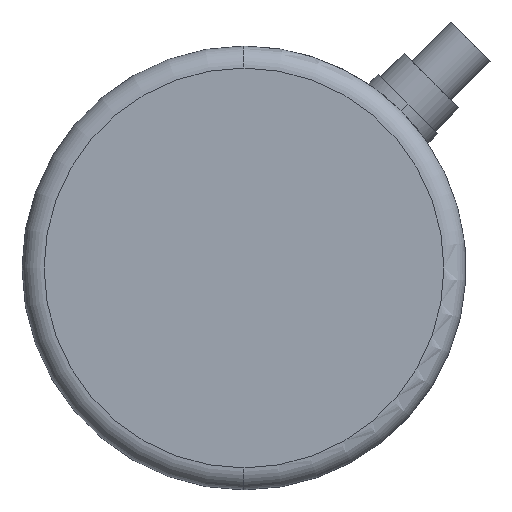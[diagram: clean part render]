
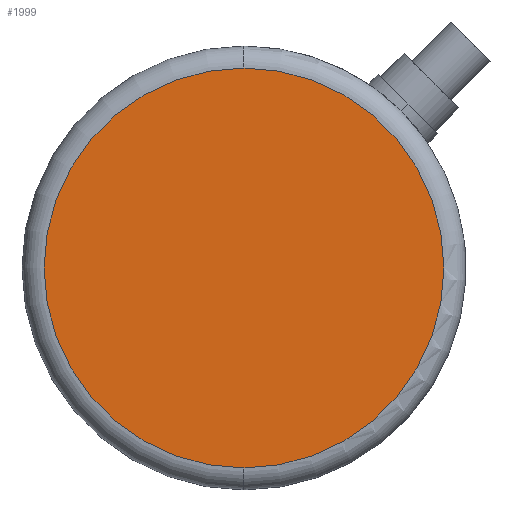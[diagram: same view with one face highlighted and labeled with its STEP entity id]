
A CAD part, front view. The second image highlights one B-rep face of the part: STEP entity #1999.
In plain terms, the highlighted planar face has unit normal (0, -1, 0).
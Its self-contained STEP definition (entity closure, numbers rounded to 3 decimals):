
#299 = ORIENTED_EDGE ( 'NONE', *, *, #2094, .T. ) ;
#300 = ORIENTED_EDGE ( 'NONE', *, *, #2115, .T. ) ;
#468 = CARTESIAN_POINT ( 'NONE',  ( 0., 0., 18.1 ) ) ;
#487 = CARTESIAN_POINT ( 'NONE',  ( 0., 0., -18.1 ) ) ;
#1130 = PLANE ( 'NONE',  #2607 ) ;
#1131 = CARTESIAN_POINT ( 'NONE',  ( 0., 0., 0. ) ) ;
#1132 = DIRECTION ( 'NONE',  ( 0., -1., 0. ) ) ;
#1133 = DIRECTION ( 'NONE',  ( 0., 0., -1. ) ) ;
#1426 = CARTESIAN_POINT ( 'NONE',  ( 0., 0., 0. ) ) ;
#1427 = DIRECTION ( 'NONE',  ( 0., -1., 0. ) ) ;
#1428 = DIRECTION ( 'NONE',  ( 0., 0., -1. ) ) ;
#1519 = CARTESIAN_POINT ( 'NONE',  ( 0., 0., 0. ) ) ;
#1520 = DIRECTION ( 'NONE',  ( 0., -1., 0. ) ) ;
#1521 = DIRECTION ( 'NONE',  ( 0., 0., -1. ) ) ;
#1709 = AXIS2_PLACEMENT_3D ( 'NONE', #1519, #1520, #1521 ) ;
#1765 = VERTEX_POINT ( 'NONE', #468 ) ;
#1859 = VERTEX_POINT ( 'NONE', #487 ) ;
#1999 = ADVANCED_FACE ( 'NONE', ( #2603 ), #1130, .T. ) ;
#2094 = EDGE_CURVE ( 'NONE', #1859, #1765, #2247, .T. ) ;
#2115 = EDGE_CURVE ( 'NONE', #1765, #1859, #2259, .T. ) ;
#2247 = CIRCLE ( 'NONE', #2661, 18.1 ) ;
#2259 = CIRCLE ( 'NONE', #1709, 18.1 ) ;
#2603 = FACE_OUTER_BOUND ( 'NONE', #2713, .T. ) ;
#2607 = AXIS2_PLACEMENT_3D ( 'NONE', #1131, #1132, #1133 ) ;
#2661 = AXIS2_PLACEMENT_3D ( 'NONE', #1426, #1427, #1428 ) ;
#2713 = EDGE_LOOP ( 'NONE', ( #299, #300 ) ) ;
